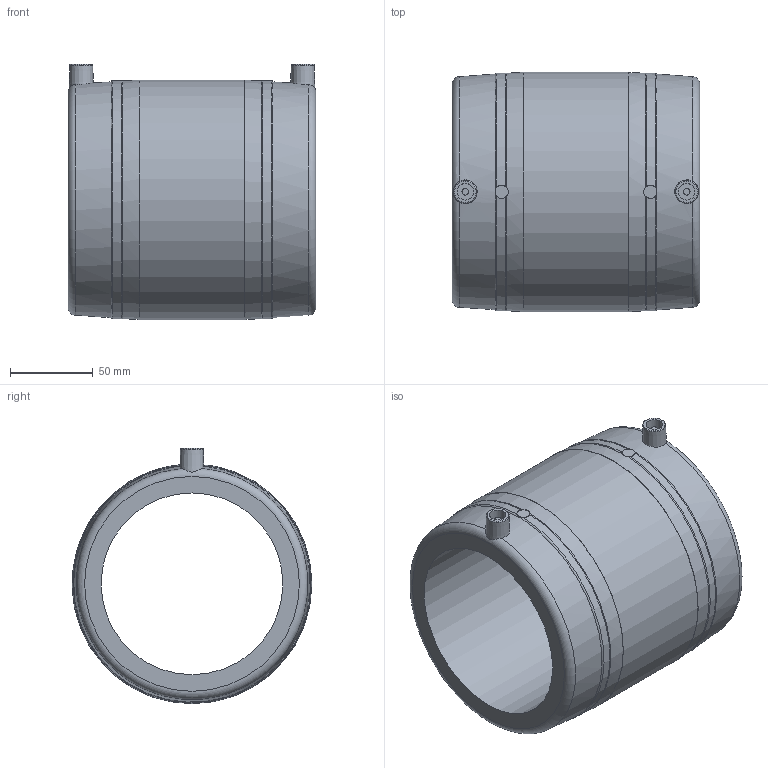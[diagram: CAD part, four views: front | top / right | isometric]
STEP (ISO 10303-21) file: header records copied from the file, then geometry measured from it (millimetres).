
FILE_DESCRIPTION(/* description */ ('Unknown'),/* implementation_level */ '2;1');
FILE_NAME(/* name */ 'MP110H',/* time_stamp */ '2021-05-26T17:35:17+02:00',/* author */ ('Unknown'),/* organization */ ('Unknown'),/* preprocessor_version */ 'ST-DEVELOPER v16.7',/* originating_system */ 'Solid Edge',/* authorisation */ 'Unknown');
FILE_SCHEMA (('AUTOMOTIVE_DESIGN {1 0 10303 214 3 1 1}'));
Length unit declared in the file: millimetre
Products named in the file (1): MP110H
Bounding box: 150 x 145 x 154.5 mm (x, y, z)
Volume: 996703.4 mm3; surface area: 131802.9 mm2
Topology: 1 solids, 1 shells, 36 faces, 80 edges, 50 vertices
Faces by surface type: torus 10, plane 10, cone 8, cylinder 8
Full cylindrical faces by diameter (mm): 4 x2, 8 x2, 10 x2, 110 x1, 145 x1
Entity records: 892 total; most frequent: CARTESIAN_POINT 215, DIRECTION 138, ORIENTED_EDGE 100, AXIS2_PLACEMENT_3D 69, EDGE_LOOP 62, FACE_BOUND 62, EDGE_CURVE 50, VERTEX_POINT 40
